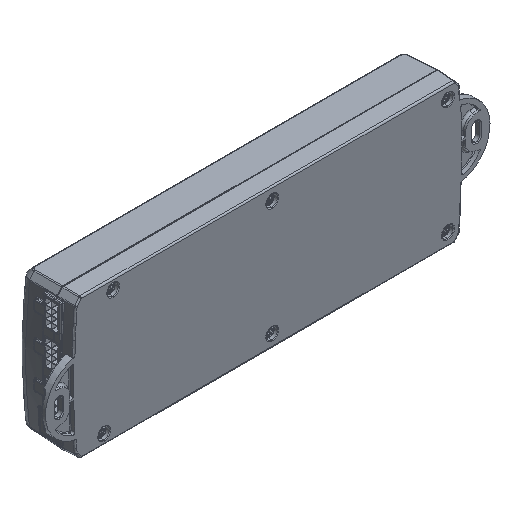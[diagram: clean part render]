
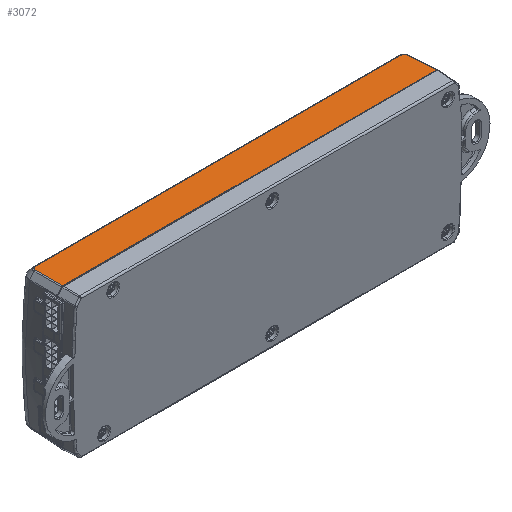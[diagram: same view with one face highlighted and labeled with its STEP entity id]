
A CAD part, isometric view. The second image highlights one B-rep face of the part: STEP entity #3072.
In plain terms, the highlighted planar face has unit normal (0, 0.035, 0.999).
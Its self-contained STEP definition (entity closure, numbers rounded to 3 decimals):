
#115 = CARTESIAN_POINT ( 'NONE',  ( -124.184, 10.323, 46.639 ) ) ;
#124 = CARTESIAN_POINT ( 'NONE',  ( -122.811, 20.858, 46.272 ) ) ;
#654 = CARTESIAN_POINT ( 'NONE',  ( 124.478, 1.223, 46.957 ) ) ;
#778 = CARTESIAN_POINT ( 'NONE',  ( 124.184, 10.323, 46.639 ) ) ;
#1455 = CARTESIAN_POINT ( 'NONE',  ( 123.903, 19.015, 46.336 ) ) ;
#1584 = CARTESIAN_POINT ( 'NONE',  ( 122.687, 20.906, 46.27 ) ) ;
#2020 = ORIENTED_EDGE ( 'NONE', *, *, #4818, .T. ) ;
#2809 = CARTESIAN_POINT ( 'NONE',  ( -121.877, 21.117, 46.263 ) ) ;
#2922 = CARTESIAN_POINT ( 'NONE',  ( -124.297, 6.847, 46.761 ) ) ;
#2938 = CARTESIAN_POINT ( 'NONE',  ( -123.348, 20.416, 46.287 ) ) ;
#3072 = ADVANCED_FACE ( 'NONE', ( #18710 ), #5089, .T. ) ;
#3590 = CARTESIAN_POINT ( 'NONE',  ( 124.072, 13.8, 46.518 ) ) ;
#4255 = B_SPLINE_CURVE_WITH_KNOTS ( 'NONE', 3,
 ( #1455, #31784, #26695, #9916, #29449, #12736, #32264, #15536, #35057, #18352, #1584, #21168, #4396, #24003, #7182, #26802 ),
 .UNSPECIFIED., .F., .F.,
 ( 4, 2, 2, 2, 2, 2, 2, 4 ),
 ( 0., 0., 0.001, 0.002, 0.002, 0.002, 0.003, 0.003 ),
 .UNSPECIFIED. ) ;
#4396 = CARTESIAN_POINT ( 'NONE',  ( 122.294, 21.05, 46.265 ) ) ;
#4818 = EDGE_CURVE ( 'NONE', #35760, #14407, #18695, .T. ) ;
#4897 = VECTOR ( 'NONE', #6781, 1000. ) ;
#5089 = PLANE ( 'NONE',  #15319 ) ;
#5229 = EDGE_CURVE ( 'NONE', #8292, #25700, #14243, .T. ) ;
#5730 = CARTESIAN_POINT ( 'NONE',  ( -124.409, 3.37, 46.882 ) ) ;
#5739 = CARTESIAN_POINT ( 'NONE',  ( -123.597, 20.079, 46.299 ) ) ;
#5765 = EDGE_CURVE ( 'NONE', #25700, #9046, #4255, .T. ) ;
#6194 = VECTOR ( 'NONE', #19364, 1000. ) ;
#6405 = CARTESIAN_POINT ( 'NONE',  ( 123.959, 17.276, 46.397 ) ) ;
#6477 = VERTEX_POINT ( 'NONE', #8541 ) ;
#6781 = DIRECTION ( 'NONE',  ( -1., 0., 0. ) ) ;
#7182 = CARTESIAN_POINT ( 'NONE',  ( 121.884, 21.117, 46.263 ) ) ;
#7878 = DIRECTION ( 'NONE',  ( 0., 0.035, 0.999 ) ) ;
#8279 = EDGE_CURVE ( 'NONE', #9046, #6477, #19810, .T. ) ;
#8292 = VERTEX_POINT ( 'NONE', #12578 ) ;
#8427 = CARTESIAN_POINT ( 'NONE',  ( -121.736, 21.115, 46.263 ) ) ;
#8541 = CARTESIAN_POINT ( 'NONE',  ( -121.736, 21.115, 46.263 ) ) ;
#8546 = CARTESIAN_POINT ( 'NONE',  ( -124.478, 1.223, 46.957 ) ) ;
#8560 = CARTESIAN_POINT ( 'NONE',  ( -123.777, 19.703, 46.312 ) ) ;
#9046 = VERTEX_POINT ( 'NONE', #36157 ) ;
#9119 = CARTESIAN_POINT ( 'NONE',  ( 124.444, 2.297, 46.92 ) ) ;
#9164 = ORIENTED_EDGE ( 'NONE', *, *, #25268, .T. ) ;
#9916 = CARTESIAN_POINT ( 'NONE',  ( 123.824, 19.562, 46.317 ) ) ;
#11259 = CARTESIAN_POINT ( 'NONE',  ( -123.903, 19.015, 46.336 ) ) ;
#11386 = CARTESIAN_POINT ( 'NONE',  ( -123.882, 19.3, 46.326 ) ) ;
#11478 = ORIENTED_EDGE ( 'NONE', *, *, #5765, .T. ) ;
#11934 = CARTESIAN_POINT ( 'NONE',  ( 124.516, 0.15, 46.997 ) ) ;
#12578 = CARTESIAN_POINT ( 'NONE',  ( 124.516, 0.15, 46.997 ) ) ;
#12736 = CARTESIAN_POINT ( 'NONE',  ( 123.612, 20.08, 46.299 ) ) ;
#14067 = CARTESIAN_POINT ( 'NONE',  ( -124.016, 15.538, 46.457 ) ) ;
#14080 = CARTESIAN_POINT ( 'NONE',  ( -122.015, 21.104, 46.263 ) ) ;
#14199 = CARTESIAN_POINT ( 'NONE',  ( -123.903, 19.022, 46.336 ) ) ;
#14243 = B_SPLINE_CURVE_WITH_KNOTS ( 'NONE', 3,
 ( #11934, #654, #9119, #31469, #14727, #34280, #17553, #778, #20386, #3590, #23206, #6405, #26008 ),
 .UNSPECIFIED., .F., .F.,
 ( 4, 3, 3, 3, 4 ),
 ( 0., 0.003, 0.009, 0.014, 0.019 ),
 .UNSPECIFIED. ) ;
#14407 = VERTEX_POINT ( 'NONE', #33551 ) ;
#14727 = CARTESIAN_POINT ( 'NONE',  ( 124.353, 5.109, 46.822 ) ) ;
#15319 = AXIS2_PLACEMENT_3D ( 'NONE', #24701, #7878, #27504 ) ;
#15536 = CARTESIAN_POINT ( 'NONE',  ( 123.154, 20.604, 46.28 ) ) ;
#15622 = ORIENTED_EDGE ( 'NONE', *, *, #35548, .F. ) ;
#16361 = CARTESIAN_POINT ( 'NONE',  ( 123.903, 19.015, 46.336 ) ) ;
#16877 = CARTESIAN_POINT ( 'NONE',  ( -124.128, 12.062, 46.579 ) ) ;
#16886 = CARTESIAN_POINT ( 'NONE',  ( -122.422, 21.013, 46.266 ) ) ;
#17553 = CARTESIAN_POINT ( 'NONE',  ( 124.24, 8.585, 46.7 ) ) ;
#18352 = CARTESIAN_POINT ( 'NONE',  ( 122.81, 20.842, 46.272 ) ) ;
#18695 = B_SPLINE_CURVE_WITH_KNOTS ( 'NONE', 3,
 ( #28021, #25234, #27897, #11259, #30782, #14067, #33621, #16877, #115, #19701, #2922, #22531, #5730, #25355, #8546, #28138 ),
 .UNSPECIFIED., .F., .F.,
 ( 4, 3, 3, 3, 3, 4 ),
 ( 0., 0., 0.005, 0.01, 0.016, 0.019 ),
 .UNSPECIFIED. ) ;
#18710 = FACE_OUTER_BOUND ( 'NONE', #20872, .T. ) ;
#19364 = DIRECTION ( 'NONE',  ( -1., 0., 0. ) ) ;
#19701 = CARTESIAN_POINT ( 'NONE',  ( -124.24, 8.585, 46.7 ) ) ;
#19713 = CARTESIAN_POINT ( 'NONE',  ( -123.049, 20.704, 46.277 ) ) ;
#19810 = LINE ( 'NONE', #31979, #4897 ) ;
#20386 = CARTESIAN_POINT ( 'NONE',  ( 124.128, 12.062, 46.579 ) ) ;
#20872 = EDGE_LOOP ( 'NONE', ( #15622, #35957, #11478, #36156, #9164, #2020 ) ) ;
#21168 = CARTESIAN_POINT ( 'NONE',  ( 122.429, 21.01, 46.266 ) ) ;
#22531 = CARTESIAN_POINT ( 'NONE',  ( -124.353, 5.109, 46.822 ) ) ;
#22541 = CARTESIAN_POINT ( 'NONE',  ( -123.439, 20.307, 46.291 ) ) ;
#23206 = CARTESIAN_POINT ( 'NONE',  ( 124.016, 15.538, 46.457 ) ) ;
#24003 = CARTESIAN_POINT ( 'NONE',  ( 122.022, 21.103, 46.263 ) ) ;
#24701 = CARTESIAN_POINT ( 'NONE',  ( -128., 0., 47. ) ) ;
#25234 = CARTESIAN_POINT ( 'NONE',  ( -123.903, 19.02, 46.336 ) ) ;
#25268 = EDGE_CURVE ( 'NONE', #6477, #35760, #31402, .T. ) ;
#25355 = CARTESIAN_POINT ( 'NONE',  ( -124.444, 2.297, 46.92 ) ) ;
#25367 = CARTESIAN_POINT ( 'NONE',  ( -123.665, 19.958, 46.303 ) ) ;
#25700 = VERTEX_POINT ( 'NONE', #16361 ) ;
#26008 = CARTESIAN_POINT ( 'NONE',  ( 123.903, 19.015, 46.336 ) ) ;
#26695 = CARTESIAN_POINT ( 'NONE',  ( 123.884, 19.292, 46.326 ) ) ;
#26802 = CARTESIAN_POINT ( 'NONE',  ( 121.743, 21.115, 46.263 ) ) ;
#27504 = DIRECTION ( 'NONE',  ( 0., -0.999, 0.035 ) ) ;
#27632 = LINE ( 'NONE', #36057, #6194 ) ;
#27897 = CARTESIAN_POINT ( 'NONE',  ( -123.903, 19.017, 46.336 ) ) ;
#28021 = CARTESIAN_POINT ( 'NONE',  ( -123.903, 19.022, 46.336 ) ) ;
#28138 = CARTESIAN_POINT ( 'NONE',  ( -124.516, 0.15, 46.997 ) ) ;
#28146 = CARTESIAN_POINT ( 'NONE',  ( -123.821, 19.57, 46.317 ) ) ;
#29449 = CARTESIAN_POINT ( 'NONE',  ( 123.78, 19.696, 46.312 ) ) ;
#30782 = CARTESIAN_POINT ( 'NONE',  ( -123.959, 17.276, 46.397 ) ) ;
#30932 = CARTESIAN_POINT ( 'NONE',  ( -123.9, 19.162, 46.331 ) ) ;
#31402 = B_SPLINE_CURVE_WITH_KNOTS ( 'NONE', 3,
 ( #8427, #2809, #14080, #33638, #16886, #124, #19713, #2938, #22541, #5739, #25367, #8560, #28146, #11386, #30932, #14199 ),
 .UNSPECIFIED., .F., .F.,
 ( 4, 2, 2, 2, 2, 2, 2, 4 ),
 ( 0., 0., 0.001, 0.002, 0.002, 0.002, 0.003, 0.003 ),
 .UNSPECIFIED. ) ;
#31469 = CARTESIAN_POINT ( 'NONE',  ( 124.409, 3.37, 46.882 ) ) ;
#31784 = CARTESIAN_POINT ( 'NONE',  ( 123.9, 19.155, 46.331 ) ) ;
#31979 = CARTESIAN_POINT ( 'NONE',  ( -121.736, 21.115, 46.263 ) ) ;
#32264 = CARTESIAN_POINT ( 'NONE',  ( 123.452, 20.314, 46.291 ) ) ;
#32992 = CARTESIAN_POINT ( 'NONE',  ( -123.903, 19.022, 46.336 ) ) ;
#33551 = CARTESIAN_POINT ( 'NONE',  ( -124.516, 0.15, 46.997 ) ) ;
#33621 = CARTESIAN_POINT ( 'NONE',  ( -124.072, 13.8, 46.518 ) ) ;
#33638 = CARTESIAN_POINT ( 'NONE',  ( -122.287, 21.053, 46.265 ) ) ;
#34280 = CARTESIAN_POINT ( 'NONE',  ( 124.297, 6.847, 46.761 ) ) ;
#35057 = CARTESIAN_POINT ( 'NONE',  ( 123.043, 20.692, 46.277 ) ) ;
#35548 = EDGE_CURVE ( 'NONE', #8292, #14407, #27632, .T. ) ;
#35760 = VERTEX_POINT ( 'NONE', #32992 ) ;
#35957 = ORIENTED_EDGE ( 'NONE', *, *, #5229, .T. ) ;
#36057 = CARTESIAN_POINT ( 'NONE',  ( 130.1, 0.15, 46.995 ) ) ;
#36156 = ORIENTED_EDGE ( 'NONE', *, *, #8279, .T. ) ;
#36157 = CARTESIAN_POINT ( 'NONE',  ( 121.743, 21.115, 46.263 ) ) ;
